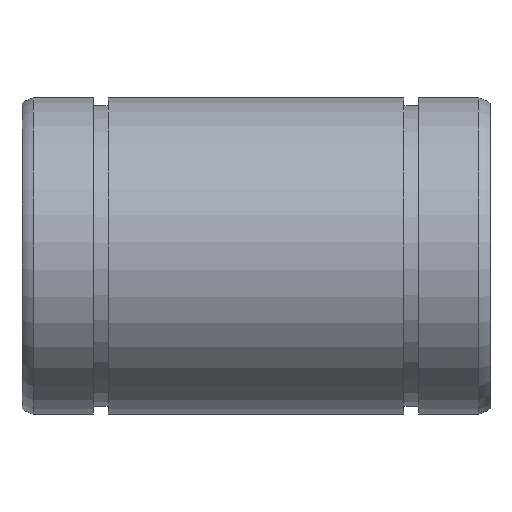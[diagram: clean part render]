
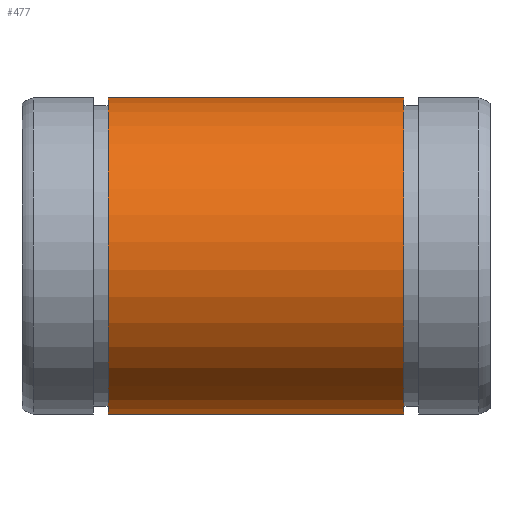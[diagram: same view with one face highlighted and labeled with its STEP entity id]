
A CAD part, top view. The second image highlights one B-rep face of the part: STEP entity #477.
In plain terms, the highlighted cylindrical face has radius 20 mm (diameter 40 mm), a partial arc.
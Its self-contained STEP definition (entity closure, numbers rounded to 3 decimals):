
#90=CARTESIAN_POINT('',(10.85,8.42,-18.141));
#91=VERTEX_POINT('',#90);
#98=CARTESIAN_POINT('',(48.15,8.42,-18.141));
#99=VERTEX_POINT('',#98);
#100=CARTESIAN_POINT('',(48.15,8.42,-18.141));
#101=DIRECTION('',(-1.0,0.0,0.0));
#102=VECTOR('',#101,37.3);
#103=LINE('',#100,#102);
#104=EDGE_CURVE('',#99,#91,#103,.T.);
#333=CARTESIAN_POINT('',(48.15,-8.42,-18.141));
#334=VERTEX_POINT('',#333);
#341=CARTESIAN_POINT('',(10.85,-8.42,-18.141));
#342=VERTEX_POINT('',#341);
#343=CARTESIAN_POINT('',(10.85,-8.42,-18.141));
#344=DIRECTION('',(1.0,0.0,0.0));
#345=VECTOR('',#344,37.3);
#346=LINE('',#343,#345);
#347=EDGE_CURVE('',#342,#334,#346,.T.);
#448=CARTESIAN_POINT('',(10.85,0.0,0.));
#449=DIRECTION('',(-1.0,0.0,0.0));
#450=DIRECTION('',(0.0,0.0,1.0));
#451=AXIS2_PLACEMENT_3D('',#448,#449,#450);
#452=CIRCLE('',#451,20.);
#453=EDGE_CURVE('',#342,#91,#452,.T.);
#460=CARTESIAN_POINT('',(29.5,0.0,0.));
#461=DIRECTION('',(-1.0,0.0,0.0));
#462=DIRECTION('',(0.0,0.0,1.0));
#463=AXIS2_PLACEMENT_3D('',#460,#461,#462);
#464=CYLINDRICAL_SURFACE('',#463,20.);
#465=ORIENTED_EDGE('',*,*,#347,.T.);
#466=CARTESIAN_POINT('',(48.15,0.0,0.));
#467=DIRECTION('',(-1.0,0.0,0.0));
#468=DIRECTION('',(0.0,0.0,1.0));
#469=AXIS2_PLACEMENT_3D('',#466,#467,#468);
#470=CIRCLE('',#469,20.);
#471=EDGE_CURVE('',#334,#99,#470,.T.);
#472=ORIENTED_EDGE('',*,*,#471,.T.);
#473=ORIENTED_EDGE('',*,*,#104,.T.);
#474=ORIENTED_EDGE('',*,*,#453,.F.);
#475=EDGE_LOOP('',(#465,#472,#473,#474));
#476=FACE_OUTER_BOUND('',#475,.T.);
#477=ADVANCED_FACE('',(#476),#464,.T.);
